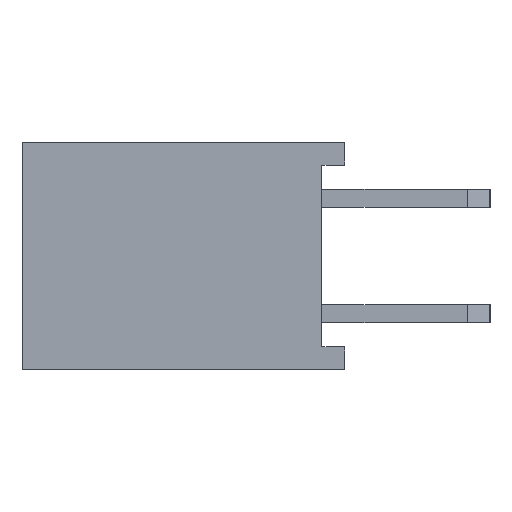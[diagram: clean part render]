
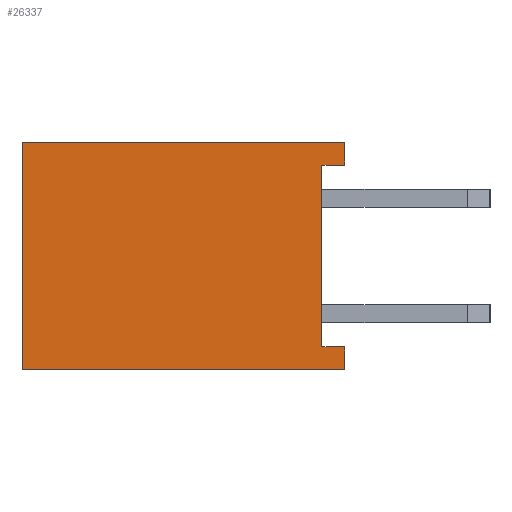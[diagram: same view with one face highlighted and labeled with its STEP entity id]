
A CAD part, left-side view. The second image highlights one B-rep face of the part: STEP entity #26337.
In plain terms, the highlighted planar face has unit normal (-1, 0, 0).
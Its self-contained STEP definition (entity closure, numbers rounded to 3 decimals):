
#1 = EDGE_CURVE ( 'NONE', #23251, #5572, #11247, .T. ) ;
#621 = LINE ( 'NONE', #19001, #8709 ) ;
#769 = ORIENTED_EDGE ( 'NONE', *, *, #12914, .F. ) ;
#823 = ORIENTED_EDGE ( 'NONE', *, *, #12161, .F. ) ;
#916 = EDGE_CURVE ( 'NONE', #5572, #10373, #9320, .T. ) ;
#1401 = CARTESIAN_POINT ( 'NONE',  ( -13.97, 0., -5. ) ) ;
#1684 = VERTEX_POINT ( 'NONE', #9087 ) ;
#1937 = VECTOR ( 'NONE', #21152, 1000. ) ;
#3214 = VERTEX_POINT ( 'NONE', #7517 ) ;
#3411 = ORIENTED_EDGE ( 'NONE', *, *, #18831, .F. ) ;
#3513 = LINE ( 'NONE', #1401, #8486 ) ;
#3588 = DIRECTION ( 'NONE',  ( 0., 0., 1. ) ) ;
#3715 = PLANE ( 'NONE',  #5638 ) ;
#4047 = VECTOR ( 'NONE', #22166, 1000. ) ;
#4770 = ORIENTED_EDGE ( 'NONE', *, *, #916, .T. ) ;
#5071 = DIRECTION ( 'NONE',  ( 0., 1., 0. ) ) ;
#5572 = VERTEX_POINT ( 'NONE', #24774 ) ;
#5638 = AXIS2_PLACEMENT_3D ( 'NONE', #12316, #20927, #23181 ) ;
#5720 = LINE ( 'NONE', #14321, #11350 ) ;
#5997 = VERTEX_POINT ( 'NONE', #20524 ) ;
#6732 = CARTESIAN_POINT ( 'NONE',  ( -13.97, 3.5, -5. ) ) ;
#7517 = CARTESIAN_POINT ( 'NONE',  ( -13.97, 4., -0.5 ) ) ;
#7805 = CARTESIAN_POINT ( 'NONE',  ( -13.97, 3.5, -5. ) ) ;
#8486 = VECTOR ( 'NONE', #5071, 1000. ) ;
#8651 = DIRECTION ( 'NONE',  ( 0., -1., 0. ) ) ;
#8709 = VECTOR ( 'NONE', #8651, 1000. ) ;
#9028 = EDGE_CURVE ( 'NONE', #5997, #1684, #3513, .T. ) ;
#9087 = CARTESIAN_POINT ( 'NONE',  ( -13.97, 10.6, -5. ) ) ;
#9138 = EDGE_LOOP ( 'NONE', ( #4770, #823, #23172, #16507, #3411, #769, #24621, #10014 ) ) ;
#9320 = LINE ( 'NONE', #26658, #13882 ) ;
#9329 = CARTESIAN_POINT ( 'NONE',  ( -13.97, 4., -4.5 ) ) ;
#9808 = EDGE_CURVE ( 'NONE', #5997, #20608, #10354, .T. ) ;
#10014 = ORIENTED_EDGE ( 'NONE', *, *, #1, .T. ) ;
#10292 = LINE ( 'NONE', #12415, #1937 ) ;
#10354 = LINE ( 'NONE', #7805, #15264 ) ;
#10373 = VERTEX_POINT ( 'NONE', #12984 ) ;
#10961 = DIRECTION ( 'NONE',  ( 0., 0., 1. ) ) ;
#11247 = LINE ( 'NONE', #6732, #15486 ) ;
#11350 = VECTOR ( 'NONE', #22921, 1000. ) ;
#12161 = EDGE_CURVE ( 'NONE', #1684, #10373, #10292, .T. ) ;
#12316 = CARTESIAN_POINT ( 'NONE',  ( -13.97, 0., -5. ) ) ;
#12415 = CARTESIAN_POINT ( 'NONE',  ( -13.97, 10.6, 0. ) ) ;
#12914 = EDGE_CURVE ( 'NONE', #3214, #18142, #5720, .T. ) ;
#12984 = CARTESIAN_POINT ( 'NONE',  ( -13.97, 10.6, 0. ) ) ;
#13568 = CARTESIAN_POINT ( 'NONE',  ( -13.97, 1.75, -0.5 ) ) ;
#13882 = VECTOR ( 'NONE', #23838, 1000. ) ;
#14321 = CARTESIAN_POINT ( 'NONE',  ( -13.97, 4., -1.099 ) ) ;
#15264 = VECTOR ( 'NONE', #3588, 1000. ) ;
#15486 = VECTOR ( 'NONE', #10961, 1000. ) ;
#16507 = ORIENTED_EDGE ( 'NONE', *, *, #9808, .T. ) ;
#18142 = VERTEX_POINT ( 'NONE', #9329 ) ;
#18831 = EDGE_CURVE ( 'NONE', #18142, #20608, #621, .T. ) ;
#19001 = CARTESIAN_POINT ( 'NONE',  ( -13.97, 1.75, -4.5 ) ) ;
#20409 = EDGE_CURVE ( 'NONE', #23251, #3214, #22456, .T. ) ;
#20524 = CARTESIAN_POINT ( 'NONE',  ( -13.97, 3.5, -5. ) ) ;
#20608 = VERTEX_POINT ( 'NONE', #25258 ) ;
#20927 = DIRECTION ( 'NONE',  ( -1., 0., 0. ) ) ;
#21152 = DIRECTION ( 'NONE',  ( 0., 0., 1. ) ) ;
#22166 = DIRECTION ( 'NONE',  ( 0., 1., 0. ) ) ;
#22456 = LINE ( 'NONE', #13568, #4047 ) ;
#22921 = DIRECTION ( 'NONE',  ( 0., 0., -1. ) ) ;
#23033 = FACE_OUTER_BOUND ( 'NONE', #9138, .T. ) ;
#23139 = CARTESIAN_POINT ( 'NONE',  ( -13.97, 3.5, -0.5 ) ) ;
#23172 = ORIENTED_EDGE ( 'NONE', *, *, #9028, .F. ) ;
#23181 = DIRECTION ( 'NONE',  ( 0., 0., 1. ) ) ;
#23251 = VERTEX_POINT ( 'NONE', #23139 ) ;
#23838 = DIRECTION ( 'NONE',  ( 0., 1., 0. ) ) ;
#24621 = ORIENTED_EDGE ( 'NONE', *, *, #20409, .F. ) ;
#24774 = CARTESIAN_POINT ( 'NONE',  ( -13.97, 3.5, 0. ) ) ;
#25258 = CARTESIAN_POINT ( 'NONE',  ( -13.97, 3.5, -4.5 ) ) ;
#26337 = ADVANCED_FACE ( 'NONE', ( #23033 ), #3715, .T. ) ;
#26658 = CARTESIAN_POINT ( 'NONE',  ( -13.97, 0., 0. ) ) ;
